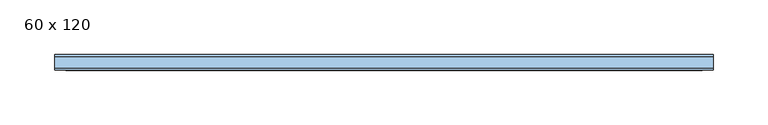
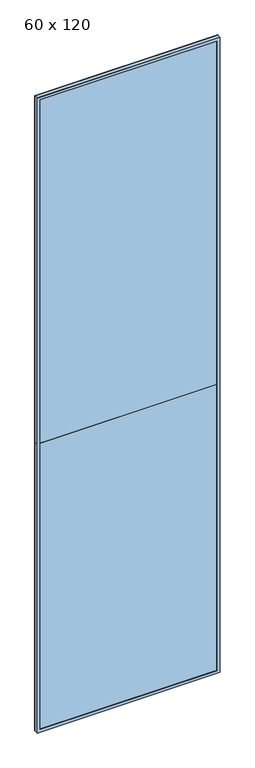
"""IFC4 building model written with IfcOpenShell, lengths in millimetres: window geometry, JANELA DE VIDRO PIVOTANTE - 1 FOLHA + PEITORIL DE VIDRO FIXO - 1 FOLHA : 60 x 120."""

from ifc_helpers import new_model, si_unit, frame, origin, origin_with_axes, place, context, project, spatial, polyline, outline, extrude, source, transform, mapped, element, save


def window_60_x_120_2cb1537e(model_context):
    return source(origin(), model_context, "Body", "SweptSolid", [
        extrude(outline(polyline([(290.0, -63.0), (290.0, -73.0), (-310.0, -73.0), (-310.0, -63.0), (290.0, -63.0)])), frame((0.0, 0.0, 1000.0), z_axis=(0.0, 0.0, 1.0), x_axis=(1.0, 0.0, 0.0)), (0.0, 0.0, 1.0), 1200.0),
        extrude(outline(polyline([(290.0, -63.0), (290.0, -73.0), (-310.0, -73.0), (-310.0, -63.0), (290.0, -63.0)])), origin_with_axes(), (0.0, 0.0, 1.0), 1000.0),
        extrude(outline(polyline([(2200.0, -310.0), (0.0, -310.0), (0.0, 290.0), (2200.0, 290.0), (2200.0, -310.0)]), holes=[polyline([(2190.0, 280.0), (10.0, 280.0), (10.0, -300.0), (2190.0, -300.0), (2190.0, 280.0)])]), frame((0.0, -75.0, 0.0), z_axis=(0.0, 1.0, 0.0), x_axis=(0.0, 0.0, 1.0)), (0.0, 0.0, 1.0), 2.0),
        extrude(outline(polyline([(2200.0, -310.0), (0.0, -310.0), (0.0, 290.0), (2200.0, 290.0), (2200.0, -310.0)]), holes=[polyline([(2190.0, 280.0), (10.0, 280.0), (10.0, -300.0), (2190.0, -300.0), (2190.0, 280.0)])]), frame((0.0, -63.0, 0.0), z_axis=(0.0, 1.0, 0.0), x_axis=(0.0, 0.0, 1.0)), (0.0, 0.0, 1.0), 2.0),
    ])


if __name__ == "__main__":
    model = new_model("IFC4")
    model_context = context("Model", 3, world=origin())
    ifc_project = project(units=[si_unit("LENGTHUNIT", "METRE", prefix="MILLI")], contexts=[model_context])
    site = spatial("IfcSite", under=ifc_project)
    building = spatial("IfcBuilding", under=site)
    placement = place(None, origin())
    window_60_x_120_shape = window_60_x_120_2cb1537e(model_context)
    element("IfcWindow", 1, ObjectType="JANELA DE VIDRO PIVOTANTE - 1 FOLHA + PEITORIL DE VIDRO FIXO - 1 FOLHA : 60 x 120", at=placement, inside=building, context=model_context, shape_type="MappedRepresentation", body=[
        mapped(window_60_x_120_shape, transform((0.0, 0.0, 0.0), x_axis=(1.0, 0.0, 0.0), y_axis=(0.0, 1.0, 0.0), z_axis=(0.0, 0.0, 1.0))),
    ])
    save(model, "model.ifc")
